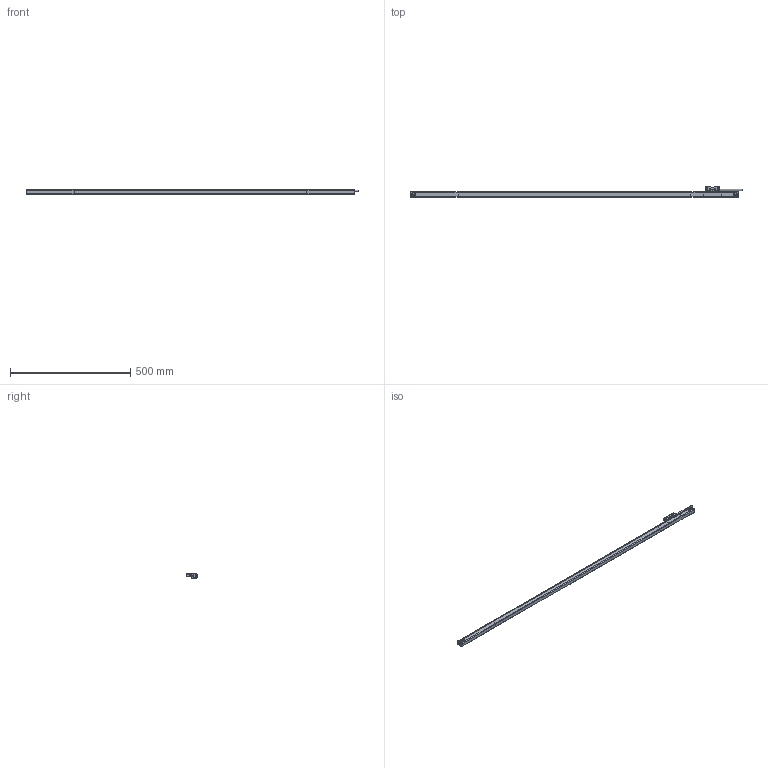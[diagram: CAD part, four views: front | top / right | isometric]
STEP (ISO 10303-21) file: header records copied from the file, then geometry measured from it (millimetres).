
FILE_DESCRIPTION( ( 'STEP AP203' ), '1' );
FILE_NAME( 'N:/Engineering/CAD_Solid/Magnescale/GBER/GB-125ER_SR138-125R.stp', '2013-03-14T10:05:54', ( ' ' ), ( ' ' ), 'XStep 1.0', ' ', ' ' );
FILE_SCHEMA( ( 'CONFIG_CONTROL_DESIGN) ( )' ) );
Length unit declared in the file: metre
Products named in the file (1): 1
Bounding box: 1382.5 x 42 x 21 mm (x, y, z)
Surface area: 134773.6 mm2 (no closed solid volume)
Topology: 0 solids, 250 shells, 250 faces, 1400 edges, 1373 vertices
Faces by surface type: plane 156, cylinder 75, torus 12, cone 7
Full cylindrical faces by diameter (mm): 4 x8, 4.8 x1, 5 x2, 6 x1, 9.8 x2, 10 x2
Entity records: 13534 total; most frequent: CARTESIAN_POINT 2983, DIRECTION 2284, ORIENTED_EDGE 1366, EDGE_CURVE 1366, VERTEX_POINT 1366, LINE 950, VECTOR 950, AXIS2_PLACEMENT_3D 667
